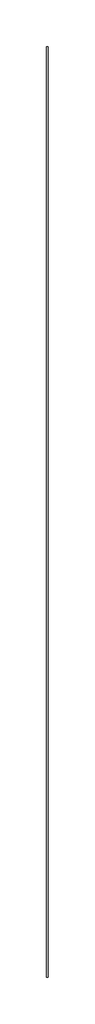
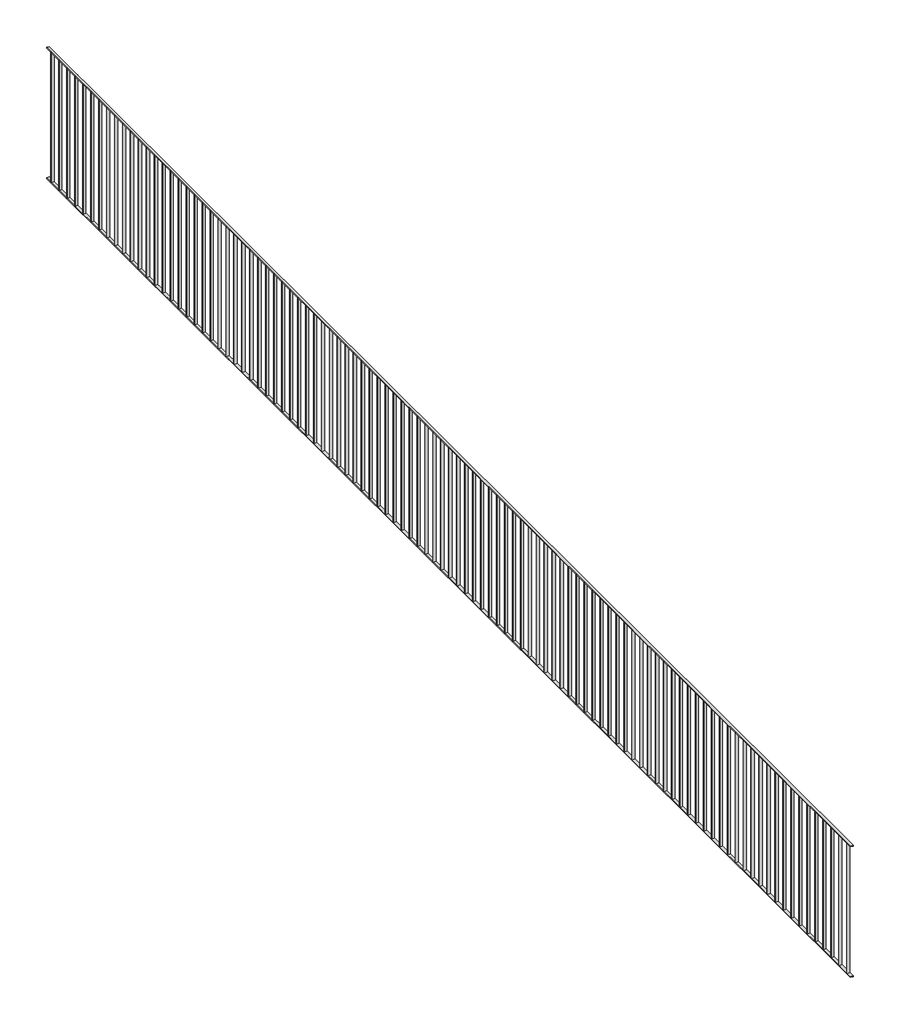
# One storey: 1 railing.
"""IFC4 building model written with IfcOpenShell, lengths in millimetres."""

from ifc_helpers import new_model, si_unit, frame, origin, place, context, project, spatial, polyline, outline, extrude, element, save

model = new_model("IFC4")

# Units and contexts
model_context = context("Model", 3, world=origin())
ifc_project = project(units=[si_unit("LENGTHUNIT", "METRE", prefix="MILLI")], contexts=[model_context])

# Site, building, storey
site = spatial("IfcSite", under=ifc_project)
building = spatial("IfcBuilding", under=site)
storey = spatial("IfcBuildingStorey", under=building, Name="1 - Parapetto", Elevation=4000.0)

# Railing
placement = place(None, origin())
element("IfcRailing", 1, ObjectType="Rettangolare Semplice", at=placement, inside=storey, context=model_context, shape_type="SweptSolid", body=[
    extrude(outline(polyline([(566.5587139, 7040.2673061), (586.5587139, 7040.2673061), (586.5587139, -3059.7326939), (566.5587139, -3059.7326939), (566.5587139, 7040.2673061)])), frame((0.0, 0.0, 4060.0), z_axis=(0.0, 0.0, 1.0), x_axis=(1.0, 0.0, 0.0)), (0.0, 0.0, 1.0), 5.0),
    extrude(outline(polyline([(566.5952154, 7040.2673061), (586.5952154, 7040.2673061), (586.5952154, -3059.7326939), (566.5952154, -3059.7326939), (566.5952154, 7040.2673061)])), frame((0.0, 0.0, 3060.0), z_axis=(0.0, 0.0, 1.0), x_axis=(1.0, 0.0, 0.0)), (0.0, 0.0, 1.0), 5.0),
    extrude(outline(polyline([(585.717852, -3014.0536719), (585.717852, -3019.0536719), (565.717852, -3019.0536719), (565.717852, -3014.0536719), (585.717852, -3014.0536719)])), frame((0.0, 0.0, 3064.9549766), z_axis=(0.0, 0.0, 1.0), x_axis=(1.0, 0.0, 0.0)), (0.0, 0.0, 1.0), 997.6),
    extrude(outline(polyline([(585.717852, -2914.0536719), (585.717852, -2919.0536719), (565.717852, -2919.0536719), (565.717852, -2914.0536719), (585.717852, -2914.0536719)])), frame((0.0, 0.0, 3064.9549766), z_axis=(0.0, 0.0, 1.0), x_axis=(1.0, 0.0, 0.0)), (0.0, 0.0, 1.0), 997.6),
    extrude(outline(polyline([(585.717852, -2814.0536719), (585.717852, -2819.0536719), (565.717852, -2819.0536719), (565.717852, -2814.0536719), (585.717852, -2814.0536719)])), frame((0.0, 0.0, 3064.9549766), z_axis=(0.0, 0.0, 1.0), x_axis=(1.0, 0.0, 0.0)), (0.0, 0.0, 1.0), 997.6),
    extrude(outline(polyline([(585.717852, -2714.0536719), (585.717852, -2719.0536719), (565.717852, -2719.0536719), (565.717852, -2714.0536719), (585.717852, -2714.0536719)])), frame((0.0, 0.0, 3064.9549766), z_axis=(0.0, 0.0, 1.0), x_axis=(1.0, 0.0, 0.0)), (0.0, 0.0, 1.0), 997.6),
    extrude(outline(polyline([(585.717852, -2614.0536719), (585.717852, -2619.0536719), (565.717852, -2619.0536719), (565.717852, -2614.0536719), (585.717852, -2614.0536719)])), frame((0.0, 0.0, 3064.9549766), z_axis=(0.0, 0.0, 1.0), x_axis=(1.0, 0.0, 0.0)), (0.0, 0.0, 1.0), 997.6),
    extrude(outline(polyline([(585.717852, -2514.0536719), (585.717852, -2519.0536719), (565.717852, -2519.0536719), (565.717852, -2514.0536719), (585.717852, -2514.0536719)])), frame((0.0, 0.0, 3064.9549766), z_axis=(0.0, 0.0, 1.0), x_axis=(1.0, 0.0, 0.0)), (0.0, 0.0, 1.0), 997.6),
    extrude(outline(polyline([(585.717852, -2414.0536719), (585.717852, -2419.0536719), (565.717852, -2419.0536719), (565.717852, -2414.0536719), (585.717852, -2414.0536719)])), frame((0.0, 0.0, 3064.9549766), z_axis=(0.0, 0.0, 1.0), x_axis=(1.0, 0.0, 0.0)), (0.0, 0.0, 1.0), 997.6),
    extrude(outline(polyline([(585.717852, -2314.0536719), (585.717852, -2319.0536719), (565.717852, -2319.0536719), (565.717852, -2314.0536719), (585.717852, -2314.0536719)])), frame((0.0, 0.0, 3064.9549766), z_axis=(0.0, 0.0, 1.0), x_axis=(1.0, 0.0, 0.0)), (0.0, 0.0, 1.0), 997.6),
    extrude(outline(polyline([(585.717852, -2214.0536719), (585.717852, -2219.0536719), (565.717852, -2219.0536719), (565.717852, -2214.0536719), (585.717852, -2214.0536719)])), frame((0.0, 0.0, 3064.9549766), z_axis=(0.0, 0.0, 1.0), x_axis=(1.0, 0.0, 0.0)), (0.0, 0.0, 1.0), 997.6),
    extrude(outline(polyline([(585.717852, -2114.0536719), (585.717852, -2119.0536719), (565.717852, -2119.0536719), (565.717852, -2114.0536719), (585.717852, -2114.0536719)])), frame((0.0, 0.0, 3064.9549766), z_axis=(0.0, 0.0, 1.0), x_axis=(1.0, 0.0, 0.0)), (0.0, 0.0, 1.0), 997.6),
    extrude(outline(polyline([(585.717852, -2014.0536719), (585.717852, -2019.0536719), (565.717852, -2019.0536719), (565.717852, -2014.0536719), (585.717852, -2014.0536719)])), frame((0.0, 0.0, 3064.9549766), z_axis=(0.0, 0.0, 1.0), x_axis=(1.0, 0.0, 0.0)), (0.0, 0.0, 1.0), 997.6),
    extrude(outline(polyline([(585.717852, -1914.0536719), (585.717852, -1919.0536719), (565.717852, -1919.0536719), (565.717852, -1914.0536719), (585.717852, -1914.0536719)])), frame((0.0, 0.0, 3064.9549766), z_axis=(0.0, 0.0, 1.0), x_axis=(1.0, 0.0, 0.0)), (0.0, 0.0, 1.0), 997.6),
    extrude(outline(polyline([(585.717852, -1814.0536719), (585.717852, -1819.0536719), (565.717852, -1819.0536719), (565.717852, -1814.0536719), (585.717852, -1814.0536719)])), frame((0.0, 0.0, 3064.9549766), z_axis=(0.0, 0.0, 1.0), x_axis=(1.0, 0.0, 0.0)), (0.0, 0.0, 1.0), 997.6),
    extrude(outline(polyline([(585.717852, -1714.0536719), (585.717852, -1719.0536719), (565.717852, -1719.0536719), (565.717852, -1714.0536719), (585.717852, -1714.0536719)])), frame((0.0, 0.0, 3064.9549766), z_axis=(0.0, 0.0, 1.0), x_axis=(1.0, 0.0, 0.0)), (0.0, 0.0, 1.0), 997.6),
    extrude(outline(polyline([(585.717852, -1614.0536719), (585.717852, -1619.0536719), (565.717852, -1619.0536719), (565.717852, -1614.0536719), (585.717852, -1614.0536719)])), frame((0.0, 0.0, 3064.9549766), z_axis=(0.0, 0.0, 1.0), x_axis=(1.0, 0.0, 0.0)), (0.0, 0.0, 1.0), 997.6),
    extrude(outline(polyline([(585.717852, -1514.0536719), (585.717852, -1519.0536719), (565.717852, -1519.0536719), (565.717852, -1514.0536719), (585.717852, -1514.0536719)])), frame((0.0, 0.0, 3064.9549766), z_axis=(0.0, 0.0, 1.0), x_axis=(1.0, 0.0, 0.0)), (0.0, 0.0, 1.0), 997.6),
    extrude(outline(polyline([(585.717852, -1414.0536719), (585.717852, -1419.0536719), (565.717852, -1419.0536719), (565.717852, -1414.0536719), (585.717852, -1414.0536719)])), frame((0.0, 0.0, 3064.9549766), z_axis=(0.0, 0.0, 1.0), x_axis=(1.0, 0.0, 0.0)), (0.0, 0.0, 1.0), 997.6),
    extrude(outline(polyline([(585.717852, -1314.0536719), (585.717852, -1319.0536719), (565.717852, -1319.0536719), (565.717852, -1314.0536719), (585.717852, -1314.0536719)])), frame((0.0, 0.0, 3064.9549766), z_axis=(0.0, 0.0, 1.0), x_axis=(1.0, 0.0, 0.0)), (0.0, 0.0, 1.0), 997.6),
    extrude(outline(polyline([(585.717852, -1214.0536719), (585.717852, -1219.0536719), (565.717852, -1219.0536719), (565.717852, -1214.0536719), (585.717852, -1214.0536719)])), frame((0.0, 0.0, 3064.9549766), z_axis=(0.0, 0.0, 1.0), x_axis=(1.0, 0.0, 0.0)), (0.0, 0.0, 1.0), 997.6),
    extrude(outline(polyline([(585.717852, -1114.0536719), (585.717852, -1119.0536719), (565.717852, -1119.0536719), (565.717852, -1114.0536719), (585.717852, -1114.0536719)])), frame((0.0, 0.0, 3064.9549766), z_axis=(0.0, 0.0, 1.0), x_axis=(1.0, 0.0, 0.0)), (0.0, 0.0, 1.0), 997.6),
    extrude(outline(polyline([(585.717852, -1014.0536719), (585.717852, -1019.0536719), (565.717852, -1019.0536719), (565.717852, -1014.0536719), (585.717852, -1014.0536719)])), frame((0.0, 0.0, 3064.9549766), z_axis=(0.0, 0.0, 1.0), x_axis=(1.0, 0.0, 0.0)), (0.0, 0.0, 1.0), 997.6),
    extrude(outline(polyline([(585.717852, -914.0536719), (585.717852, -919.0536719), (565.717852, -919.0536719), (565.717852, -914.0536719), (585.717852, -914.0536719)])), frame((0.0, 0.0, 3064.9549766), z_axis=(0.0, 0.0, 1.0), x_axis=(1.0, 0.0, 0.0)), (0.0, 0.0, 1.0), 997.6),
    extrude(outline(polyline([(585.717852, -814.0536719), (585.717852, -819.0536719), (565.717852, -819.0536719), (565.717852, -814.0536719), (585.717852, -814.0536719)])), frame((0.0, 0.0, 3064.9549766), z_axis=(0.0, 0.0, 1.0), x_axis=(1.0, 0.0, 0.0)), (0.0, 0.0, 1.0), 997.6),
    extrude(outline(polyline([(585.717852, -714.0536719), (585.717852, -719.0536719), (565.717852, -719.0536719), (565.717852, -714.0536719), (585.717852, -714.0536719)])), frame((0.0, 0.0, 3064.9549766), z_axis=(0.0, 0.0, 1.0), x_axis=(1.0, 0.0, 0.0)), (0.0, 0.0, 1.0), 997.6),
    extrude(outline(polyline([(585.717852, -614.0536719), (585.717852, -619.0536719), (565.717852, -619.0536719), (565.717852, -614.0536719), (585.717852, -614.0536719)])), frame((0.0, 0.0, 3064.9549766), z_axis=(0.0, 0.0, 1.0), x_axis=(1.0, 0.0, 0.0)), (0.0, 0.0, 1.0), 997.6),
    extrude(outline(polyline([(585.717852, -514.0536719), (585.717852, -519.0536719), (565.717852, -519.0536719), (565.717852, -514.0536719), (585.717852, -514.0536719)])), frame((0.0, 0.0, 3064.9549766), z_axis=(0.0, 0.0, 1.0), x_axis=(1.0, 0.0, 0.0)), (0.0, 0.0, 1.0), 997.6),
    extrude(outline(polyline([(585.717852, -414.0536719), (585.717852, -419.0536719), (565.717852, -419.0536719), (565.717852, -414.0536719), (585.717852, -414.0536719)])), frame((0.0, 0.0, 3064.9549766), z_axis=(0.0, 0.0, 1.0), x_axis=(1.0, 0.0, 0.0)), (0.0, 0.0, 1.0), 997.6),
    extrude(outline(polyline([(585.717852, -314.0536719), (585.717852, -319.0536719), (565.717852, -319.0536719), (565.717852, -314.0536719), (585.717852, -314.0536719)])), frame((0.0, 0.0, 3064.9549766), z_axis=(0.0, 0.0, 1.0), x_axis=(1.0, 0.0, 0.0)), (0.0, 0.0, 1.0), 997.6),
    extrude(outline(polyline([(585.717852, -214.0536719), (585.717852, -219.0536719), (565.717852, -219.0536719), (565.717852, -214.0536719), (585.717852, -214.0536719)])), frame((0.0, 0.0, 3064.9549766), z_axis=(0.0, 0.0, 1.0), x_axis=(1.0, 0.0, 0.0)), (0.0, 0.0, 1.0), 997.6),
    extrude(outline(polyline([(585.717852, -114.0536719), (585.717852, -119.0536719), (565.717852, -119.0536719), (565.717852, -114.0536719), (585.717852, -114.0536719)])), frame((0.0, 0.0, 3064.9549766), z_axis=(0.0, 0.0, 1.0), x_axis=(1.0, 0.0, 0.0)), (0.0, 0.0, 1.0), 997.6),
    extrude(outline(polyline([(585.717852, -14.0536719), (585.717852, -19.0536719), (565.717852, -19.0536719), (565.717852, -14.0536719), (585.717852, -14.0536719)])), frame((0.0, 0.0, 3064.9549766), z_axis=(0.0, 0.0, 1.0), x_axis=(1.0, 0.0, 0.0)), (0.0, 0.0, 1.0), 997.6),
    extrude(outline(polyline([(585.717852, 85.9463281), (585.717852, 80.9463281), (565.717852, 80.9463281), (565.717852, 85.9463281), (585.717852, 85.9463281)])), frame((0.0, 0.0, 3064.9549766), z_axis=(0.0, 0.0, 1.0), x_axis=(1.0, 0.0, 0.0)), (0.0, 0.0, 1.0), 997.6),
    extrude(outline(polyline([(585.717852, 185.9463281), (585.717852, 180.9463281), (565.717852, 180.9463281), (565.717852, 185.9463281), (585.717852, 185.9463281)])), frame((0.0, 0.0, 3064.9549766), z_axis=(0.0, 0.0, 1.0), x_axis=(1.0, 0.0, 0.0)), (0.0, 0.0, 1.0), 997.6),
    extrude(outline(polyline([(585.717852, 285.9463281), (585.717852, 280.9463281), (565.717852, 280.9463281), (565.717852, 285.9463281), (585.717852, 285.9463281)])), frame((0.0, 0.0, 3064.9549766), z_axis=(0.0, 0.0, 1.0), x_axis=(1.0, 0.0, 0.0)), (0.0, 0.0, 1.0), 997.6),
    extrude(outline(polyline([(585.717852, 385.9463281), (585.717852, 380.9463281), (565.717852, 380.9463281), (565.717852, 385.9463281), (585.717852, 385.9463281)])), frame((0.0, 0.0, 3064.9549766), z_axis=(0.0, 0.0, 1.0), x_axis=(1.0, 0.0, 0.0)), (0.0, 0.0, 1.0), 997.6),
    extrude(outline(polyline([(585.717852, 485.9463281), (585.717852, 480.9463281), (565.717852, 480.9463281), (565.717852, 485.9463281), (585.717852, 485.9463281)])), frame((0.0, 0.0, 3064.9549766), z_axis=(0.0, 0.0, 1.0), x_axis=(1.0, 0.0, 0.0)), (0.0, 0.0, 1.0), 997.6),
    extrude(outline(polyline([(585.717852, 585.9463281), (585.717852, 580.9463281), (565.717852, 580.9463281), (565.717852, 585.9463281), (585.717852, 585.9463281)])), frame((0.0, 0.0, 3064.9549766), z_axis=(0.0, 0.0, 1.0), x_axis=(1.0, 0.0, 0.0)), (0.0, 0.0, 1.0), 997.6),
    extrude(outline(polyline([(585.717852, 685.9463281), (585.717852, 680.9463281), (565.717852, 680.9463281), (565.717852, 685.9463281), (585.717852, 685.9463281)])), frame((0.0, 0.0, 3064.9549766), z_axis=(0.0, 0.0, 1.0), x_axis=(1.0, 0.0, 0.0)), (0.0, 0.0, 1.0), 997.6),
    extrude(outline(polyline([(585.717852, 785.9463281), (585.717852, 780.9463281), (565.717852, 780.9463281), (565.717852, 785.9463281), (585.717852, 785.9463281)])), frame((0.0, 0.0, 3064.9549766), z_axis=(0.0, 0.0, 1.0), x_axis=(1.0, 0.0, 0.0)), (0.0, 0.0, 1.0), 997.6),
    extrude(outline(polyline([(585.717852, 885.9463281), (585.717852, 880.9463281), (565.717852, 880.9463281), (565.717852, 885.9463281), (585.717852, 885.9463281)])), frame((0.0, 0.0, 3064.9549766), z_axis=(0.0, 0.0, 1.0), x_axis=(1.0, 0.0, 0.0)), (0.0, 0.0, 1.0), 997.6),
    extrude(outline(polyline([(585.717852, 985.9463281), (585.717852, 980.9463281), (565.717852, 980.9463281), (565.717852, 985.9463281), (585.717852, 985.9463281)])), frame((0.0, 0.0, 3064.9549766), z_axis=(0.0, 0.0, 1.0), x_axis=(1.0, 0.0, 0.0)), (0.0, 0.0, 1.0), 997.6),
    extrude(outline(polyline([(585.717852, 1085.9463281), (585.717852, 1080.9463281), (565.717852, 1080.9463281), (565.717852, 1085.9463281), (585.717852, 1085.9463281)])), frame((0.0, 0.0, 3064.9549766), z_axis=(0.0, 0.0, 1.0), x_axis=(1.0, 0.0, 0.0)), (0.0, 0.0, 1.0), 997.6),
    extrude(outline(polyline([(585.717852, 1185.9463281), (585.717852, 1180.9463281), (565.717852, 1180.9463281), (565.717852, 1185.9463281), (585.717852, 1185.9463281)])), frame((0.0, 0.0, 3064.9549766), z_axis=(0.0, 0.0, 1.0), x_axis=(1.0, 0.0, 0.0)), (0.0, 0.0, 1.0), 997.6),
    extrude(outline(polyline([(585.717852, 1285.9463281), (585.717852, 1280.9463281), (565.717852, 1280.9463281), (565.717852, 1285.9463281), (585.717852, 1285.9463281)])), frame((0.0, 0.0, 3064.9549766), z_axis=(0.0, 0.0, 1.0), x_axis=(1.0, 0.0, 0.0)), (0.0, 0.0, 1.0), 997.6),
    extrude(outline(polyline([(585.717852, 1385.9463281), (585.717852, 1380.9463281), (565.717852, 1380.9463281), (565.717852, 1385.9463281), (585.717852, 1385.9463281)])), frame((0.0, 0.0, 3064.9549766), z_axis=(0.0, 0.0, 1.0), x_axis=(1.0, 0.0, 0.0)), (0.0, 0.0, 1.0), 997.6),
    extrude(outline(polyline([(585.717852, 1485.9463281), (585.717852, 1480.9463281), (565.717852, 1480.9463281), (565.717852, 1485.9463281), (585.717852, 1485.9463281)])), frame((0.0, 0.0, 3064.9549766), z_axis=(0.0, 0.0, 1.0), x_axis=(1.0, 0.0, 0.0)), (0.0, 0.0, 1.0), 997.6),
    extrude(outline(polyline([(585.717852, 1585.9463281), (585.717852, 1580.9463281), (565.717852, 1580.9463281), (565.717852, 1585.9463281), (585.717852, 1585.9463281)])), frame((0.0, 0.0, 3064.9549766), z_axis=(0.0, 0.0, 1.0), x_axis=(1.0, 0.0, 0.0)), (0.0, 0.0, 1.0), 997.6),
    extrude(outline(polyline([(585.717852, 1685.9463281), (585.717852, 1680.9463281), (565.717852, 1680.9463281), (565.717852, 1685.9463281), (585.717852, 1685.9463281)])), frame((0.0, 0.0, 3064.9549766), z_axis=(0.0, 0.0, 1.0), x_axis=(1.0, 0.0, 0.0)), (0.0, 0.0, 1.0), 997.6),
    extrude(outline(polyline([(585.717852, 1785.9463281), (585.717852, 1780.9463281), (565.717852, 1780.9463281), (565.717852, 1785.9463281), (585.717852, 1785.9463281)])), frame((0.0, 0.0, 3064.9549766), z_axis=(0.0, 0.0, 1.0), x_axis=(1.0, 0.0, 0.0)), (0.0, 0.0, 1.0), 997.6),
    extrude(outline(polyline([(585.717852, 1885.9463281), (585.717852, 1880.9463281), (565.717852, 1880.9463281), (565.717852, 1885.9463281), (585.717852, 1885.9463281)])), frame((0.0, 0.0, 3064.9549766), z_axis=(0.0, 0.0, 1.0), x_axis=(1.0, 0.0, 0.0)), (0.0, 0.0, 1.0), 997.6),
    extrude(outline(polyline([(585.717852, 1985.9463281), (585.717852, 1980.9463281), (565.717852, 1980.9463281), (565.717852, 1985.9463281), (585.717852, 1985.9463281)])), frame((0.0, 0.0, 3064.9549766), z_axis=(0.0, 0.0, 1.0), x_axis=(1.0, 0.0, 0.0)), (0.0, 0.0, 1.0), 997.6),
    extrude(outline(polyline([(585.717852, 2085.9463281), (585.717852, 2080.9463281), (565.717852, 2080.9463281), (565.717852, 2085.9463281), (585.717852, 2085.9463281)])), frame((0.0, 0.0, 3064.9549766), z_axis=(0.0, 0.0, 1.0), x_axis=(1.0, 0.0, 0.0)), (0.0, 0.0, 1.0), 997.6),
    extrude(outline(polyline([(585.717852, 2185.9463281), (585.717852, 2180.9463281), (565.717852, 2180.9463281), (565.717852, 2185.9463281), (585.717852, 2185.9463281)])), frame((0.0, 0.0, 3064.9549766), z_axis=(0.0, 0.0, 1.0), x_axis=(1.0, 0.0, 0.0)), (0.0, 0.0, 1.0), 997.6),
    extrude(outline(polyline([(585.717852, 2285.9463281), (585.717852, 2280.9463281), (565.717852, 2280.9463281), (565.717852, 2285.9463281), (585.717852, 2285.9463281)])), frame((0.0, 0.0, 3064.9549766), z_axis=(0.0, 0.0, 1.0), x_axis=(1.0, 0.0, 0.0)), (0.0, 0.0, 1.0), 997.6),
    extrude(outline(polyline([(585.717852, 2385.9463281), (585.717852, 2380.9463281), (565.717852, 2380.9463281), (565.717852, 2385.9463281), (585.717852, 2385.9463281)])), frame((0.0, 0.0, 3064.9549766), z_axis=(0.0, 0.0, 1.0), x_axis=(1.0, 0.0, 0.0)), (0.0, 0.0, 1.0), 997.6),
    extrude(outline(polyline([(585.717852, 2485.9463281), (585.717852, 2480.9463281), (565.717852, 2480.9463281), (565.717852, 2485.9463281), (585.717852, 2485.9463281)])), frame((0.0, 0.0, 3064.9549766), z_axis=(0.0, 0.0, 1.0), x_axis=(1.0, 0.0, 0.0)), (0.0, 0.0, 1.0), 997.6),
    extrude(outline(polyline([(585.717852, 2585.9463281), (585.717852, 2580.9463281), (565.717852, 2580.9463281), (565.717852, 2585.9463281), (585.717852, 2585.9463281)])), frame((0.0, 0.0, 3064.9549766), z_axis=(0.0, 0.0, 1.0), x_axis=(1.0, 0.0, 0.0)), (0.0, 0.0, 1.0), 997.6),
    extrude(outline(polyline([(585.717852, 2685.9463281), (585.717852, 2680.9463281), (565.717852, 2680.9463281), (565.717852, 2685.9463281), (585.717852, 2685.9463281)])), frame((0.0, 0.0, 3064.9549766), z_axis=(0.0, 0.0, 1.0), x_axis=(1.0, 0.0, 0.0)), (0.0, 0.0, 1.0), 997.6),
    extrude(outline(polyline([(585.717852, 2785.9463281), (585.717852, 2780.9463281), (565.717852, 2780.9463281), (565.717852, 2785.9463281), (585.717852, 2785.9463281)])), frame((0.0, 0.0, 3064.9549766), z_axis=(0.0, 0.0, 1.0), x_axis=(1.0, 0.0, 0.0)), (0.0, 0.0, 1.0), 997.6),
    extrude(outline(polyline([(585.717852, 2885.9463281), (585.717852, 2880.9463281), (565.717852, 2880.9463281), (565.717852, 2885.9463281), (585.717852, 2885.9463281)])), frame((0.0, 0.0, 3064.9549766), z_axis=(0.0, 0.0, 1.0), x_axis=(1.0, 0.0, 0.0)), (0.0, 0.0, 1.0), 997.6),
    extrude(outline(polyline([(585.717852, 2985.9463281), (585.717852, 2980.9463281), (565.717852, 2980.9463281), (565.717852, 2985.9463281), (585.717852, 2985.9463281)])), frame((0.0, 0.0, 3064.9549766), z_axis=(0.0, 0.0, 1.0), x_axis=(1.0, 0.0, 0.0)), (0.0, 0.0, 1.0), 997.6),
    extrude(outline(polyline([(585.717852, 3085.9463281), (585.717852, 3080.9463281), (565.717852, 3080.9463281), (565.717852, 3085.9463281), (585.717852, 3085.9463281)])), frame((0.0, 0.0, 3064.9549766), z_axis=(0.0, 0.0, 1.0), x_axis=(1.0, 0.0, 0.0)), (0.0, 0.0, 1.0), 997.6),
    extrude(outline(polyline([(585.717852, 3185.9463281), (585.717852, 3180.9463281), (565.717852, 3180.9463281), (565.717852, 3185.9463281), (585.717852, 3185.9463281)])), frame((0.0, 0.0, 3064.9549766), z_axis=(0.0, 0.0, 1.0), x_axis=(1.0, 0.0, 0.0)), (0.0, 0.0, 1.0), 997.6),
    extrude(outline(polyline([(585.717852, 3285.9463281), (585.717852, 3280.9463281), (565.717852, 3280.9463281), (565.717852, 3285.9463281), (585.717852, 3285.9463281)])), frame((0.0, 0.0, 3064.9549766), z_axis=(0.0, 0.0, 1.0), x_axis=(1.0, 0.0, 0.0)), (0.0, 0.0, 1.0), 997.6),
    extrude(outline(polyline([(585.717852, 3385.9463281), (585.717852, 3380.9463281), (565.717852, 3380.9463281), (565.717852, 3385.9463281), (585.717852, 3385.9463281)])), frame((0.0, 0.0, 3064.9549766), z_axis=(0.0, 0.0, 1.0), x_axis=(1.0, 0.0, 0.0)), (0.0, 0.0, 1.0), 997.6),
    extrude(outline(polyline([(585.717852, 3485.9463281), (585.717852, 3480.9463281), (565.717852, 3480.9463281), (565.717852, 3485.9463281), (585.717852, 3485.9463281)])), frame((0.0, 0.0, 3064.9549766), z_axis=(0.0, 0.0, 1.0), x_axis=(1.0, 0.0, 0.0)), (0.0, 0.0, 1.0), 997.6),
    extrude(outline(polyline([(585.717852, 3585.9463281), (585.717852, 3580.9463281), (565.717852, 3580.9463281), (565.717852, 3585.9463281), (585.717852, 3585.9463281)])), frame((0.0, 0.0, 3064.9549766), z_axis=(0.0, 0.0, 1.0), x_axis=(1.0, 0.0, 0.0)), (0.0, 0.0, 1.0), 997.6),
    extrude(outline(polyline([(585.717852, 3685.9463281), (585.717852, 3680.9463281), (565.717852, 3680.9463281), (565.717852, 3685.9463281), (585.717852, 3685.9463281)])), frame((0.0, 0.0, 3064.9549766), z_axis=(0.0, 0.0, 1.0), x_axis=(1.0, 0.0, 0.0)), (0.0, 0.0, 1.0), 997.6),
    extrude(outline(polyline([(585.717852, 3785.9463281), (585.717852, 3780.9463281), (565.717852, 3780.9463281), (565.717852, 3785.9463281), (585.717852, 3785.9463281)])), frame((0.0, 0.0, 3064.9549766), z_axis=(0.0, 0.0, 1.0), x_axis=(1.0, 0.0, 0.0)), (0.0, 0.0, 1.0), 997.6),
    extrude(outline(polyline([(585.717852, 3885.9463281), (585.717852, 3880.9463281), (565.717852, 3880.9463281), (565.717852, 3885.9463281), (585.717852, 3885.9463281)])), frame((0.0, 0.0, 3064.9549766), z_axis=(0.0, 0.0, 1.0), x_axis=(1.0, 0.0, 0.0)), (0.0, 0.0, 1.0), 997.6),
    extrude(outline(polyline([(585.717852, 3985.9463281), (585.717852, 3980.9463281), (565.717852, 3980.9463281), (565.717852, 3985.9463281), (585.717852, 3985.9463281)])), frame((0.0, 0.0, 3064.9549766), z_axis=(0.0, 0.0, 1.0), x_axis=(1.0, 0.0, 0.0)), (0.0, 0.0, 1.0), 997.6),
    extrude(outline(polyline([(585.717852, 4085.9463281), (585.717852, 4080.9463281), (565.717852, 4080.9463281), (565.717852, 4085.9463281), (585.717852, 4085.9463281)])), frame((0.0, 0.0, 3064.9549766), z_axis=(0.0, 0.0, 1.0), x_axis=(1.0, 0.0, 0.0)), (0.0, 0.0, 1.0), 997.6),
    extrude(outline(polyline([(585.717852, 4185.9463281), (585.717852, 4180.9463281), (565.717852, 4180.9463281), (565.717852, 4185.9463281), (585.717852, 4185.9463281)])), frame((0.0, 0.0, 3064.9549766), z_axis=(0.0, 0.0, 1.0), x_axis=(1.0, 0.0, 0.0)), (0.0, 0.0, 1.0), 997.6),
    extrude(outline(polyline([(585.717852, 4285.9463281), (585.717852, 4280.9463281), (565.717852, 4280.9463281), (565.717852, 4285.9463281), (585.717852, 4285.9463281)])), frame((0.0, 0.0, 3064.9549766), z_axis=(0.0, 0.0, 1.0), x_axis=(1.0, 0.0, 0.0)), (0.0, 0.0, 1.0), 997.6),
    extrude(outline(polyline([(585.717852, 4385.9463281), (585.717852, 4380.9463281), (565.717852, 4380.9463281), (565.717852, 4385.9463281), (585.717852, 4385.9463281)])), frame((0.0, 0.0, 3064.9549766), z_axis=(0.0, 0.0, 1.0), x_axis=(1.0, 0.0, 0.0)), (0.0, 0.0, 1.0), 997.6),
    extrude(outline(polyline([(585.717852, 4485.9463281), (585.717852, 4480.9463281), (565.717852, 4480.9463281), (565.717852, 4485.9463281), (585.717852, 4485.9463281)])), frame((0.0, 0.0, 3064.9549766), z_axis=(0.0, 0.0, 1.0), x_axis=(1.0, 0.0, 0.0)), (0.0, 0.0, 1.0), 997.6),
    extrude(outline(polyline([(585.717852, 4585.9463281), (585.717852, 4580.9463281), (565.717852, 4580.9463281), (565.717852, 4585.9463281), (585.717852, 4585.9463281)])), frame((0.0, 0.0, 3064.9549766), z_axis=(0.0, 0.0, 1.0), x_axis=(1.0, 0.0, 0.0)), (0.0, 0.0, 1.0), 997.6),
    extrude(outline(polyline([(585.717852, 4685.9463281), (585.717852, 4680.9463281), (565.717852, 4680.9463281), (565.717852, 4685.9463281), (585.717852, 4685.9463281)])), frame((0.0, 0.0, 3064.9549766), z_axis=(0.0, 0.0, 1.0), x_axis=(1.0, 0.0, 0.0)), (0.0, 0.0, 1.0), 997.6),
    extrude(outline(polyline([(585.717852, 4785.9463281), (585.717852, 4780.9463281), (565.717852, 4780.9463281), (565.717852, 4785.9463281), (585.717852, 4785.9463281)])), frame((0.0, 0.0, 3064.9549766), z_axis=(0.0, 0.0, 1.0), x_axis=(1.0, 0.0, 0.0)), (0.0, 0.0, 1.0), 997.6),
    extrude(outline(polyline([(585.717852, 4885.9463281), (585.717852, 4880.9463281), (565.717852, 4880.9463281), (565.717852, 4885.9463281), (585.717852, 4885.9463281)])), frame((0.0, 0.0, 3064.9549766), z_axis=(0.0, 0.0, 1.0), x_axis=(1.0, 0.0, 0.0)), (0.0, 0.0, 1.0), 997.6),
    extrude(outline(polyline([(585.717852, 4985.9463281), (585.717852, 4980.9463281), (565.717852, 4980.9463281), (565.717852, 4985.9463281), (585.717852, 4985.9463281)])), frame((0.0, 0.0, 3064.9549766), z_axis=(0.0, 0.0, 1.0), x_axis=(1.0, 0.0, 0.0)), (0.0, 0.0, 1.0), 997.6),
    extrude(outline(polyline([(585.717852, 5085.9463281), (585.717852, 5080.9463281), (565.717852, 5080.9463281), (565.717852, 5085.9463281), (585.717852, 5085.9463281)])), frame((0.0, 0.0, 3064.9549766), z_axis=(0.0, 0.0, 1.0), x_axis=(1.0, 0.0, 0.0)), (0.0, 0.0, 1.0), 997.6),
    extrude(outline(polyline([(585.717852, 5185.9463281), (585.717852, 5180.9463281), (565.717852, 5180.9463281), (565.717852, 5185.9463281), (585.717852, 5185.9463281)])), frame((0.0, 0.0, 3064.9549766), z_axis=(0.0, 0.0, 1.0), x_axis=(1.0, 0.0, 0.0)), (0.0, 0.0, 1.0), 997.6),
    extrude(outline(polyline([(585.717852, 5285.9463281), (585.717852, 5280.9463281), (565.717852, 5280.9463281), (565.717852, 5285.9463281), (585.717852, 5285.9463281)])), frame((0.0, 0.0, 3064.9549766), z_axis=(0.0, 0.0, 1.0), x_axis=(1.0, 0.0, 0.0)), (0.0, 0.0, 1.0), 997.6),
    extrude(outline(polyline([(585.717852, 5385.9463281), (585.717852, 5380.9463281), (565.717852, 5380.9463281), (565.717852, 5385.9463281), (585.717852, 5385.9463281)])), frame((0.0, 0.0, 3064.9549766), z_axis=(0.0, 0.0, 1.0), x_axis=(1.0, 0.0, 0.0)), (0.0, 0.0, 1.0), 997.6),
    extrude(outline(polyline([(585.717852, 5485.9463281), (585.717852, 5480.9463281), (565.717852, 5480.9463281), (565.717852, 5485.9463281), (585.717852, 5485.9463281)])), frame((0.0, 0.0, 3064.9549766), z_axis=(0.0, 0.0, 1.0), x_axis=(1.0, 0.0, 0.0)), (0.0, 0.0, 1.0), 997.6),
    extrude(outline(polyline([(585.717852, 5585.9463281), (585.717852, 5580.9463281), (565.717852, 5580.9463281), (565.717852, 5585.9463281), (585.717852, 5585.9463281)])), frame((0.0, 0.0, 3064.9549766), z_axis=(0.0, 0.0, 1.0), x_axis=(1.0, 0.0, 0.0)), (0.0, 0.0, 1.0), 997.6),
    extrude(outline(polyline([(585.717852, 5685.9463281), (585.717852, 5680.9463281), (565.717852, 5680.9463281), (565.717852, 5685.9463281), (585.717852, 5685.9463281)])), frame((0.0, 0.0, 3064.9549766), z_axis=(0.0, 0.0, 1.0), x_axis=(1.0, 0.0, 0.0)), (0.0, 0.0, 1.0), 997.6),
    extrude(outline(polyline([(585.717852, 5785.9463281), (585.717852, 5780.9463281), (565.717852, 5780.9463281), (565.717852, 5785.9463281), (585.717852, 5785.9463281)])), frame((0.0, 0.0, 3064.9549766), z_axis=(0.0, 0.0, 1.0), x_axis=(1.0, 0.0, 0.0)), (0.0, 0.0, 1.0), 997.6),
    extrude(outline(polyline([(585.717852, 5885.9463281), (585.717852, 5880.9463281), (565.717852, 5880.9463281), (565.717852, 5885.9463281), (585.717852, 5885.9463281)])), frame((0.0, 0.0, 3064.9549766), z_axis=(0.0, 0.0, 1.0), x_axis=(1.0, 0.0, 0.0)), (0.0, 0.0, 1.0), 997.6),
    extrude(outline(polyline([(585.717852, 5985.9463281), (585.717852, 5980.9463281), (565.717852, 5980.9463281), (565.717852, 5985.9463281), (585.717852, 5985.9463281)])), frame((0.0, 0.0, 3064.9549766), z_axis=(0.0, 0.0, 1.0), x_axis=(1.0, 0.0, 0.0)), (0.0, 0.0, 1.0), 997.6),
    extrude(outline(polyline([(585.717852, 6085.9463281), (585.717852, 6080.9463281), (565.717852, 6080.9463281), (565.717852, 6085.9463281), (585.717852, 6085.9463281)])), frame((0.0, 0.0, 3064.9549766), z_axis=(0.0, 0.0, 1.0), x_axis=(1.0, 0.0, 0.0)), (0.0, 0.0, 1.0), 997.6),
    extrude(outline(polyline([(585.717852, 6185.9463281), (585.717852, 6180.9463281), (565.717852, 6180.9463281), (565.717852, 6185.9463281), (585.717852, 6185.9463281)])), frame((0.0, 0.0, 3064.9549766), z_axis=(0.0, 0.0, 1.0), x_axis=(1.0, 0.0, 0.0)), (0.0, 0.0, 1.0), 997.6),
    extrude(outline(polyline([(585.717852, 6285.9463281), (585.717852, 6280.9463281), (565.717852, 6280.9463281), (565.717852, 6285.9463281), (585.717852, 6285.9463281)])), frame((0.0, 0.0, 3064.9549766), z_axis=(0.0, 0.0, 1.0), x_axis=(1.0, 0.0, 0.0)), (0.0, 0.0, 1.0), 997.6),
    extrude(outline(polyline([(585.717852, 6385.9463281), (585.717852, 6380.9463281), (565.717852, 6380.9463281), (565.717852, 6385.9463281), (585.717852, 6385.9463281)])), frame((0.0, 0.0, 3064.9549766), z_axis=(0.0, 0.0, 1.0), x_axis=(1.0, 0.0, 0.0)), (0.0, 0.0, 1.0), 997.6),
    extrude(outline(polyline([(585.717852, 6485.9463281), (585.717852, 6480.9463281), (565.717852, 6480.9463281), (565.717852, 6485.9463281), (585.717852, 6485.9463281)])), frame((0.0, 0.0, 3064.9549766), z_axis=(0.0, 0.0, 1.0), x_axis=(1.0, 0.0, 0.0)), (0.0, 0.0, 1.0), 997.6),
    extrude(outline(polyline([(585.717852, 6585.9463281), (585.717852, 6580.9463281), (565.717852, 6580.9463281), (565.717852, 6585.9463281), (585.717852, 6585.9463281)])), frame((0.0, 0.0, 3064.9549766), z_axis=(0.0, 0.0, 1.0), x_axis=(1.0, 0.0, 0.0)), (0.0, 0.0, 1.0), 997.6),
    extrude(outline(polyline([(585.717852, 6685.9463281), (585.717852, 6680.9463281), (565.717852, 6680.9463281), (565.717852, 6685.9463281), (585.717852, 6685.9463281)])), frame((0.0, 0.0, 3064.9549766), z_axis=(0.0, 0.0, 1.0), x_axis=(1.0, 0.0, 0.0)), (0.0, 0.0, 1.0), 997.6),
    extrude(outline(polyline([(585.717852, 6785.9463281), (585.717852, 6780.9463281), (565.717852, 6780.9463281), (565.717852, 6785.9463281), (585.717852, 6785.9463281)])), frame((0.0, 0.0, 3064.9549766), z_axis=(0.0, 0.0, 1.0), x_axis=(1.0, 0.0, 0.0)), (0.0, 0.0, 1.0), 997.6),
    extrude(outline(polyline([(585.717852, 6885.9463281), (585.717852, 6880.9463281), (565.717852, 6880.9463281), (565.717852, 6885.9463281), (585.717852, 6885.9463281)])), frame((0.0, 0.0, 3064.9549766), z_axis=(0.0, 0.0, 1.0), x_axis=(1.0, 0.0, 0.0)), (0.0, 0.0, 1.0), 997.6),
    extrude(outline(polyline([(585.717852, 6985.9463281), (585.717852, 6980.9463281), (565.717852, 6980.9463281), (565.717852, 6985.9463281), (585.717852, 6985.9463281)])), frame((0.0, 0.0, 3064.9549766), z_axis=(0.0, 0.0, 1.0), x_axis=(1.0, 0.0, 0.0)), (0.0, 0.0, 1.0), 997.6),
])

save(model, "model.ifc")
